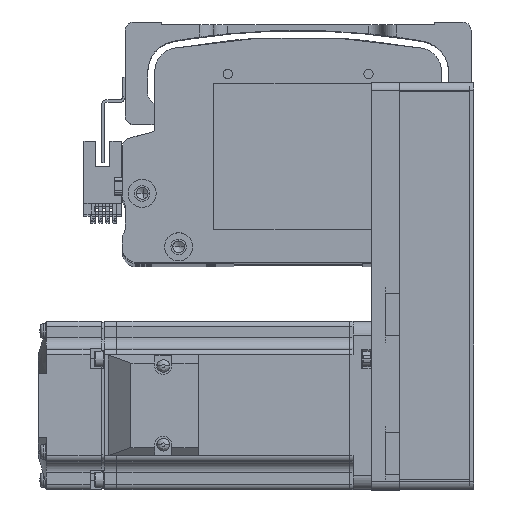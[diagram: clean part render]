
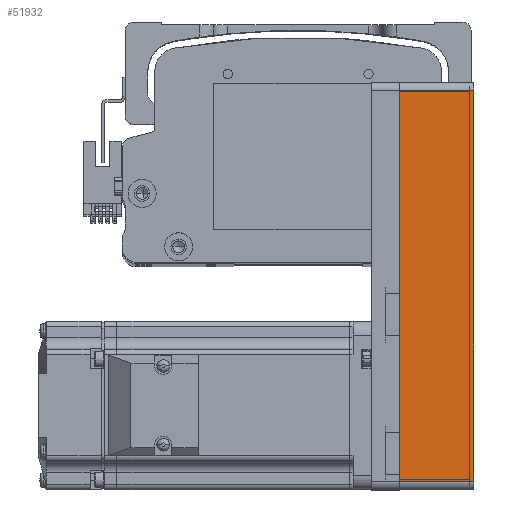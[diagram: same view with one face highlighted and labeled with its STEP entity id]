
A CAD part, top view. The second image highlights one B-rep face of the part: STEP entity #51932.
In plain terms, the highlighted planar face has unit normal (0, 0, 1) as drawn and (0, -1, 0) by its records, which use the part's own axes.
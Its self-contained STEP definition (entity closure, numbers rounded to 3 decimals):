
#658 = DIRECTION ( 'NONE',  ( 1., 0., 0. ) ) ;
#2287 = CARTESIAN_POINT ( 'NONE',  ( 69.5, -30., 0. ) ) ;
#3336 = EDGE_CURVE ( 'NONE', #3624, #38458, #28067, .T. ) ;
#3624 = VERTEX_POINT ( 'NONE', #22758 ) ;
#5959 = FACE_OUTER_BOUND ( 'NONE', #34964, .T. ) ;
#7057 = CARTESIAN_POINT ( 'NONE',  ( -69.5, -30., 26.5 ) ) ;
#15186 = EDGE_CURVE ( 'NONE', #51660, #37346, #21941, .T. ) ;
#19744 = CARTESIAN_POINT ( 'NONE',  ( 72.5, -30., 26.5 ) ) ;
#19969 = VECTOR ( 'NONE', #52264, 1000. ) ;
#21941 = LINE ( 'NONE', #46140, #19969 ) ;
#22758 = CARTESIAN_POINT ( 'NONE',  ( -69.5, -30., 26.5 ) ) ;
#23018 = VECTOR ( 'NONE', #67669, 1000. ) ;
#24195 = CARTESIAN_POINT ( 'NONE',  ( 69.5, -30., 26.5 ) ) ;
#28067 = LINE ( 'NONE', #7057, #42783 ) ;
#32317 = DIRECTION ( 'NONE',  ( 0., 1., 0. ) ) ;
#33960 = AXIS2_PLACEMENT_3D ( 'NONE', #70163, #32317, #76455 ) ;
#34964 = EDGE_LOOP ( 'NONE', ( #67498, #50221, #79057, #79782 ) ) ;
#37346 = VERTEX_POINT ( 'NONE', #24195 ) ;
#38458 = VERTEX_POINT ( 'NONE', #60637 ) ;
#39773 = LINE ( 'NONE', #73759, #23018 ) ;
#42783 = VECTOR ( 'NONE', #51200, 1000. ) ;
#43362 = EDGE_CURVE ( 'NONE', #38458, #51660, #39773, .T. ) ;
#46140 = CARTESIAN_POINT ( 'NONE',  ( 69.5, -30., 26.5 ) ) ;
#50221 = ORIENTED_EDGE ( 'NONE', *, *, #15186, .T. ) ;
#51200 = DIRECTION ( 'NONE',  ( 0., 0., -1. ) ) ;
#51660 = VERTEX_POINT ( 'NONE', #2287 ) ;
#51932 = ADVANCED_FACE ( 'NONE', ( #5959 ), #76180, .F. ) ;
#52264 = DIRECTION ( 'NONE',  ( 0., 0., 1. ) ) ;
#59878 = VECTOR ( 'NONE', #658, 1000. ) ;
#60637 = CARTESIAN_POINT ( 'NONE',  ( -69.5, -30., 0. ) ) ;
#61895 = LINE ( 'NONE', #19744, #59878 ) ;
#67498 = ORIENTED_EDGE ( 'NONE', *, *, #43362, .T. ) ;
#67669 = DIRECTION ( 'NONE',  ( 1., 0., 0. ) ) ;
#70163 = CARTESIAN_POINT ( 'NONE',  ( 72.5, -30., 26.5 ) ) ;
#73759 = CARTESIAN_POINT ( 'NONE',  ( 72.5, -30., 0. ) ) ;
#76180 = PLANE ( 'NONE',  #33960 ) ;
#76236 = EDGE_CURVE ( 'NONE', #3624, #37346, #61895, .T. ) ;
#76455 = DIRECTION ( 'NONE',  ( -1., 0., 0. ) ) ;
#79057 = ORIENTED_EDGE ( 'NONE', *, *, #76236, .F. ) ;
#79782 = ORIENTED_EDGE ( 'NONE', *, *, #3336, .T. ) ;
